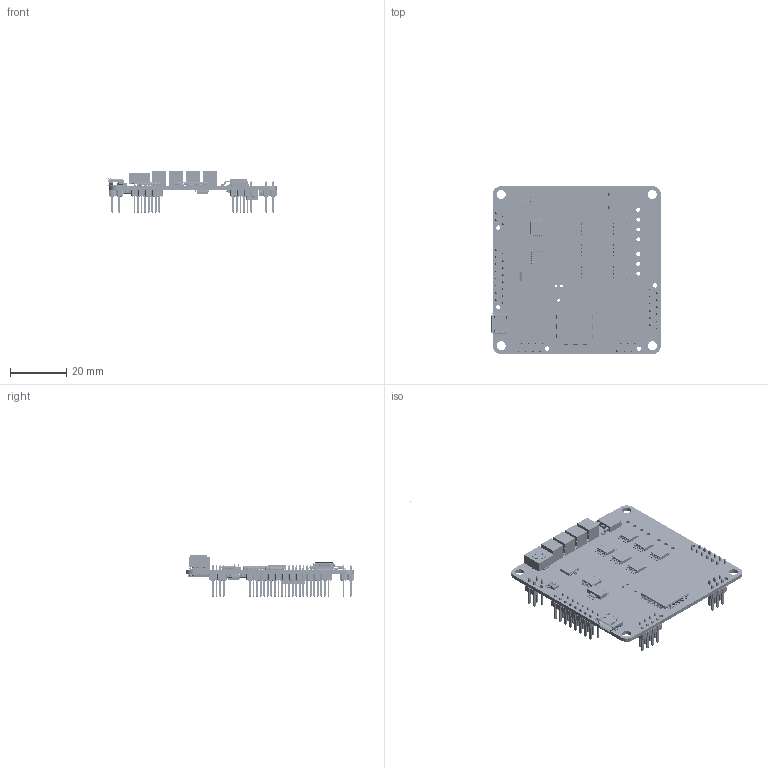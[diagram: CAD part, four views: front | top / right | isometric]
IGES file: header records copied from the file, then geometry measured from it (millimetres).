
Start section: SolidWorks IGES file using analytic representation for surfaces
Global section: file name: C:\Users\abolet\Desktop\3Ds\i038-01H1-Pinheader.IGS; native system: SolidWorks 2016; preprocessor: SolidWorks 2016; author: abolet; date: 160216.163502; units: millimetre
Bounding box: 60.55 x 115.8 x 14.99 mm (x, y, z)
Surface area: 15399 mm2 (no closed solid volume)
Topology: 0 solids, 0 shells, 8163 faces, 50548 edges, 50206 vertices
Faces by surface type: bspline 6397, revolution 1766
